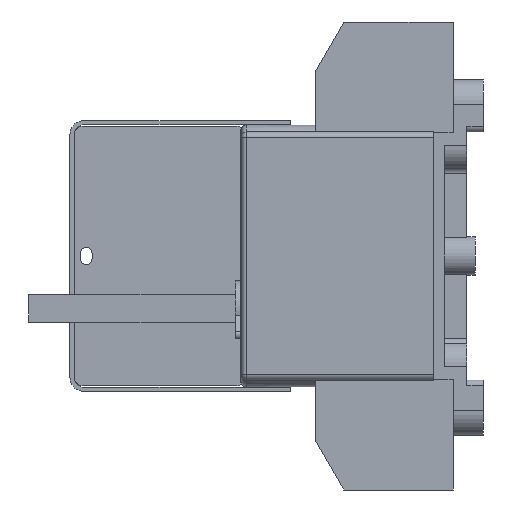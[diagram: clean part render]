
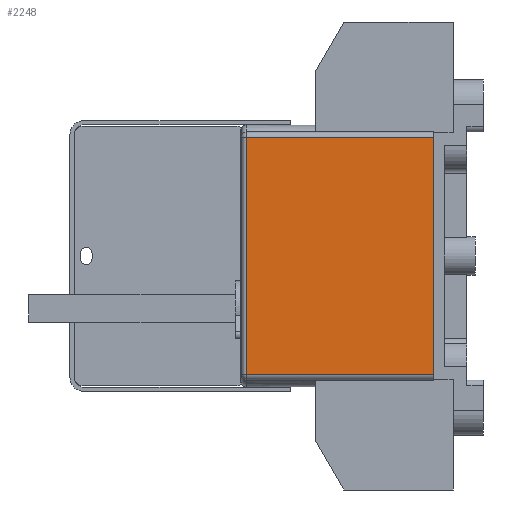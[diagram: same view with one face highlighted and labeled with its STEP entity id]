
A CAD part, left-side view. The second image highlights one B-rep face of the part: STEP entity #2248.
In plain terms, the highlighted planar face has unit normal (-1, 0, 0).
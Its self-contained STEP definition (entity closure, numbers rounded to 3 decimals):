
#2248=ADVANCED_FACE('',(#3670),#2853,.F.);
#2853=PLANE('',#19463);
#3670=FACE_OUTER_BOUND('',#4779,.T.);
#4779=EDGE_LOOP('',(#9640,#9641,#9642,#9643));
#9640=ORIENTED_EDGE('',*,*,#14139,.F.);
#9641=ORIENTED_EDGE('',*,*,#14124,.T.);
#9642=ORIENTED_EDGE('',*,*,#14140,.T.);
#9643=ORIENTED_EDGE('',*,*,#11644,.T.);
#9949=VERTEX_POINT('',#24594);
#9950=VERTEX_POINT('',#24596);
#11594=VERTEX_POINT('',#29640);
#11598=VERTEX_POINT('',#29656);
#11644=EDGE_CURVE('',#9950,#9949,#14182,.T.);
#14124=EDGE_CURVE('',#11594,#11598,#16009,.T.);
#14139=EDGE_CURVE('',#11594,#9949,#16017,.T.);
#14140=EDGE_CURVE('',#11598,#9950,#16018,.T.);
#14182=LINE('',#24595,#16060);
#16009=LINE('',#29657,#17887);
#16017=LINE('',#29696,#17895);
#16018=LINE('',#29698,#17896);
#16060=VECTOR('',#19567,1.);
#17887=VECTOR('',#24422,1.);
#17895=VECTOR('',#24450,1.);
#17896=VECTOR('',#24453,1.);
#19463=AXIS2_PLACEMENT_3D('',#29699,#24454,#24455);
#19567=DIRECTION('',(0.,0.,1.));
#24422=DIRECTION('',(0.,0.,-1.));
#24450=DIRECTION('',(0.,-1.,0.));
#24453=DIRECTION('',(0.,-1.,0.));
#24454=DIRECTION('',(1.,0.,0.));
#24455=DIRECTION('',(0.,0.,-1.));
#24594=CARTESIAN_POINT('',(-41.,0.,43.));
#24595=CARTESIAN_POINT('',(-41.,0.,-43.));
#24596=CARTESIAN_POINT('',(-41.,0.,-43.));
#29640=CARTESIAN_POINT('',(-41.,68.,43.));
#29656=CARTESIAN_POINT('',(-41.,68.,-43.));
#29657=CARTESIAN_POINT('',(-41.,68.,-43.));
#29696=CARTESIAN_POINT('',(-41.,35.,43.));
#29698=CARTESIAN_POINT('',(-41.,35.,-43.));
#29699=CARTESIAN_POINT('',(-41.,35.,-43.));
